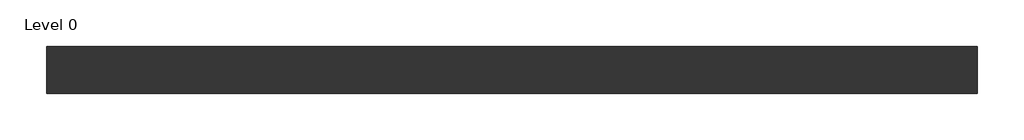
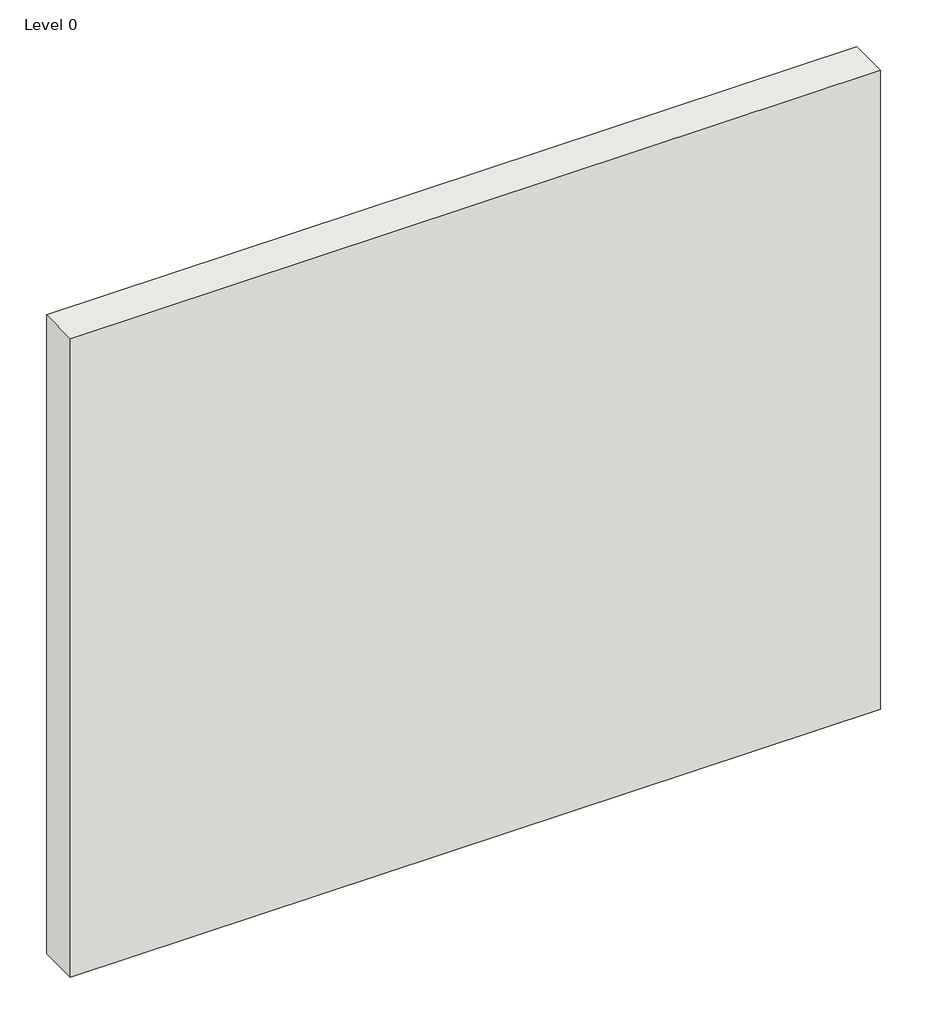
# One storey: 1 wall.
"""IFC4 building model written with IfcOpenShell, lengths in millimetres."""

import ifcopenshell
import ifcopenshell.guid

model = None  # the IFC model being written
_history = None  # IfcOwnerHistory: only IFC2X3 demands one
_inside = {}  # id of a spatial element -> (the spatial element, [elements in it])
_under = {}  # id of a project, library or spatial element -> (it, [spatial elements below it])
_declared = {}  # id of a project -> (the project, [libraries it declares])
_typed = {}  # id of a type object -> (the type object, [elements of that type])
_made_of = {}  # id of a material, layer set ... -> (it, [elements and type objects made of it])


def new_model(schema):
    """Start an empty IFC model of exactly this schema.

    Asked for "IFC4X3", IfcOpenShell would pick the latest addendum, in which some entities
    have other attributes; the version numbers below select the first issue.
    IFC2X3 requires an IfcOwnerHistory on every rooted entity: one is made here for all.
    """
    global model, _history
    if schema == "IFC4X3":
        model = ifcopenshell.file(schema_version=(4, 3, 0, 0))
    else:
        model = ifcopenshell.file(schema=schema)
    _inside.clear()
    _under.clear()
    _declared.clear()
    _typed.clear()
    _made_of.clear()
    _history = None
    if model.schema == "IFC2X3":
        org = make("IfcOrganization", Name="unknown")
        user = make(
            "IfcPersonAndOrganization",
            ThePerson=make("IfcPerson", FamilyName="unknown"),
            TheOrganization=org,
        )
        app = make(
            "IfcApplication",
            ApplicationDeveloper=org,
            Version="unknown",
            ApplicationFullName="unknown",
            ApplicationIdentifier="unknown",
        )
        _history = make(
            "IfcOwnerHistory",
            OwningUser=user,
            OwningApplication=app,
            ChangeAction="ADDED",
            CreationDate=0,
        )
    return model


def make(cls, **values):
    """One entity of the class cls with the attributes given. An attribute that is None is left unset."""
    return model.create_entity(
        cls, **{name: value for name, value in values.items() if value is not None}
    )


def rooted(cls, **values):
    """An entity with a GlobalId (a new one), such as an element, a storey or a relation."""
    return make(cls, GlobalId=ifcopenshell.guid.new(), OwnerHistory=_history, **values)


def si_unit(unit_type, name, prefix=None):
    """IfcSIUnit, for example si_unit("LENGTHUNIT", "METRE", prefix="MILLI")."""
    return make("IfcSIUnit", UnitType=unit_type, Prefix=prefix, Name=name)


def assignment(units):
    """IfcUnitAssignment: the units of a project."""
    return None if units is None else make("IfcUnitAssignment", Units=units)


def point(xyz):
    """IfcCartesianPoint."""
    return None if xyz is None else make("IfcCartesianPoint", Coordinates=xyz)


def direction(xyz):
    """IfcDirection."""
    return None if xyz is None else make("IfcDirection", DirectionRatios=xyz)


def frame(location, z_axis=None, x_axis=None):
    """IfcAxis2Placement3D, a coordinate frame: its origin and axes. An axis left out is left unset."""
    return make(
        "IfcAxis2Placement3D",
        Location=point(location),
        Axis=direction(z_axis),
        RefDirection=direction(x_axis),
    )


def origin():
    """The frame at (0, 0, 0) with its axes left unset."""
    return frame((0.0, 0.0, 0.0))


def origin_with_axes():
    """The frame at (0, 0, 0) with the z axis (0, 0, 1) and the x axis (1, 0, 0) written out."""
    return frame((0.0, 0.0, 0.0), z_axis=(0.0, 0.0, 1.0), x_axis=(1.0, 0.0, 0.0))


def place(relative_to, where):
    """IfcLocalPlacement: puts the frame where relative to a parent placement (None: the world)."""
    return make(
        "IfcLocalPlacement", PlacementRelTo=relative_to, RelativePlacement=where
    )


def context(
    kind, dimensions, precision=None, world=None, true_north=None, identifier=None
):
    """IfcGeometricRepresentationContext, for example the 3D "Model" context."""
    return make(
        "IfcGeometricRepresentationContext",
        ContextIdentifier=identifier,
        ContextType=kind,
        CoordinateSpaceDimension=dimensions,
        Precision=precision,
        WorldCoordinateSystem=world,
        TrueNorth=true_north,
    )


def project(units=None, contexts=None):
    """IfcProject with its units and contexts."""
    return rooted(
        "IfcProject",
        Name="project",
        RepresentationContexts=contexts,
        UnitsInContext=assignment(units),
    )


def spatial(cls, under=None, at=None, **own):
    """A site, building, storey or space (cls), placed at a placement, below another one or the project."""
    s = rooted(cls, ObjectPlacement=at, **own)
    if under is not None:
        _under.setdefault(under.id(), (under, []))[1].append(s)
    return s


def polyline(points):
    """IfcPolyline through the points."""
    return make("IfcPolyline", Points=[point(p) for p in points])


def outline(outer, holes=None, kind="AREA"):
    """IfcArbitraryClosedProfileDef: a profile drawn as a closed curve; with holes, ...WithVoids."""
    if holes is None:
        return make("IfcArbitraryClosedProfileDef", ProfileType=kind, OuterCurve=outer)
    return make(
        "IfcArbitraryProfileDefWithVoids",
        ProfileType=kind,
        OuterCurve=outer,
        InnerCurves=holes,
    )


def extrude(swept, where, along, depth):
    """IfcExtrudedAreaSolid: the profile swept, set in the frame where, extruded along a direction by depth."""
    return make(
        "IfcExtrudedAreaSolid",
        SweptArea=swept,
        Position=where,
        ExtrudedDirection=direction(along),
        Depth=depth,
    )


def shape(context_of_items, identifier, shape_type, items):
    """IfcShapeRepresentation: the items that make up one representation, for example the "Body"."""
    return make(
        "IfcShapeRepresentation",
        ContextOfItems=context_of_items,
        RepresentationIdentifier=identifier,
        RepresentationType=shape_type,
        Items=items,
    )


def made_of(thing, what):
    """Note that an element or type object is made of a material, layer set ...; save() writes the relation."""
    if what is not None:
        _made_of.setdefault(what.id(), (what, []))[1].append(thing)
    return thing


def element(
    cls,
    number,
    at=None,
    inside=None,
    cuts=None,
    type_object=None,
    material=None,
    context=None,
    identifier="Body",
    shape_type=None,
    held_by="IfcProductDefinitionShape",
    body=None,
    shapes=None,
    **own,
):
    """One element of the class cls, such as IfcWall. Its Tag is "e" and its number.

    at: its placement. inside: the storey or other place that contains it. cuts: it is an
    opening in that element (IfcRelVoidsElement). A single representation is given by context,
    identifier, shape_type and body (its items); several are given by shapes. held_by: the class
    of the entity that holds the representations. save() writes the other relations.
    """
    e = rooted(cls, Tag="e%d" % number, ObjectPlacement=at, **own)
    if body is not None:
        shapes = [shape(context, identifier, shape_type, body)]
    if shapes is not None:
        e.Representation = make(held_by, Representations=shapes)
    if inside is not None:
        _inside.setdefault(inside.id(), (inside, []))[1].append(e)
    if cuts is not None:
        rooted(
            "IfcRelVoidsElement", RelatingBuildingElement=cuts, RelatedOpeningElement=e
        )
    if type_object is not None:
        _typed.setdefault(type_object.id(), (type_object, []))[1].append(e)
    return made_of(e, material)


def aggregate(whole, parts):
    """IfcRelAggregates: a whole, such as a stair, and the parts it consists of."""
    return rooted("IfcRelAggregates", RelatingObject=whole, RelatedObjects=parts)


def save(model, path):
    """Write the relations noted so far, then the file.

    IfcRelAggregates (storeys below a building ...), IfcRelContainedInSpatialStructure (elements
    in a storey), IfcRelDefinesByType, IfcRelAssociatesMaterial and IfcRelDeclares: one each for
    every whole, place, type object, material and project.
    """
    for whole, parts in _under.values():
        aggregate(whole, parts)
    for where, things in _inside.values():
        rooted(
            "IfcRelContainedInSpatialStructure",
            RelatedElements=things,
            RelatingStructure=where,
        )
    for kind, things in _typed.values():
        rooted("IfcRelDefinesByType", RelatedObjects=things, RelatingType=kind)
    for what, things in _made_of.values():
        rooted("IfcRelAssociatesMaterial", RelatedObjects=things, RelatingMaterial=what)
    for by, libraries in _declared.values():
        rooted("IfcRelDeclares", RelatingContext=by, RelatedDefinitions=libraries)
    model.write(path)


model = new_model("IFC4")

# Units and contexts
model_context = context("Model", 3, world=origin())
ifc_project = project(units=[si_unit("LENGTHUNIT", "METRE", prefix="MILLI")], contexts=[model_context])

# Site, building, storey
site = spatial("IfcSite", under=ifc_project)
building = spatial("IfcBuilding", under=site)
storey = spatial("IfcBuildingStorey", under=building, Name="Level 0", Elevation=0.0)

# Wall
placement = place(None, origin())
element("IfcWall", 1, ObjectType="A316012 - GypWall QUIET SF", at=placement, inside=storey, context=model_context, shape_type="SweptSolid", body=[
    extrude(outline(polyline([(2116.0807354, 517.7205641), (-883.9192646, 517.7205641), (-883.9192646, 669.7205641), (2116.0807354, 669.7205641), (2116.0807354, 517.7205641)])), origin_with_axes(), (0.0, 0.0, 1.0), 2500.0),
])

save(model, "model.ifc")
